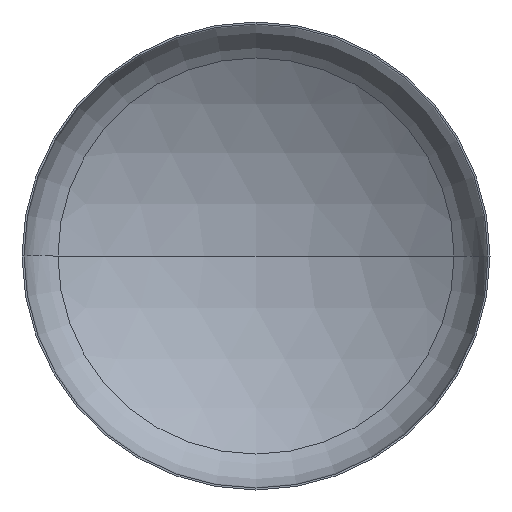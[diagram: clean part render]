
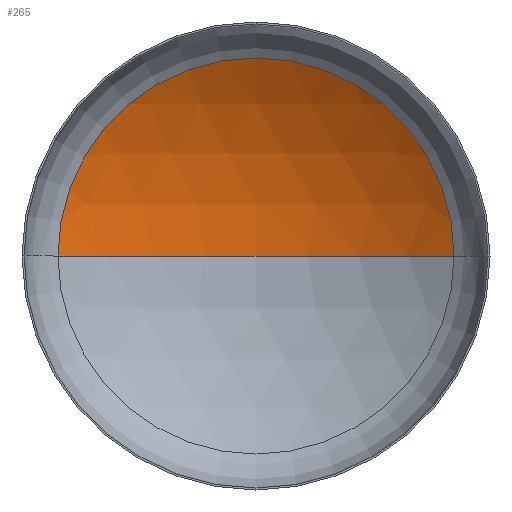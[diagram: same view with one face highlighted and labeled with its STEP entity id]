
A CAD part, front view. The second image highlights one B-rep face of the part: STEP entity #265.
In plain terms, the highlighted spherical face has radius 2880 mm.
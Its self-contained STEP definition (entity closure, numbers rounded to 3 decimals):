
#20 = DIRECTION ( 'NONE',  ( 0., 0., 1. ) ) ;
#25 = CARTESIAN_POINT ( 'NONE',  ( 0., -1927.999, 0. ) ) ;
#26 = AXIS2_PLACEMENT_3D ( 'NONE', #73, #105, #103 ) ;
#36 = VERTEX_POINT ( 'NONE', #261 ) ;
#44 = AXIS2_PLACEMENT_3D ( 'NONE', #25, #20, #65 ) ;
#45 = AXIS2_PLACEMENT_3D ( 'NONE', #206, #207, #208 ) ;
#48 = AXIS2_PLACEMENT_3D ( 'NONE', #304, #235, #232 ) ;
#65 = DIRECTION ( 'NONE',  ( 1., 0., 0. ) ) ;
#73 = CARTESIAN_POINT ( 'NONE',  ( 0., -1927.999, 0. ) ) ;
#97 = EDGE_CURVE ( 'NONE', #99, #36, #157, .T. ) ;
#98 = VERTEX_POINT ( 'NONE', #242 ) ;
#99 = VERTEX_POINT ( 'NONE', #302 ) ;
#101 = EDGE_CURVE ( 'NONE', #98, #99, #342, .T. ) ;
#103 = DIRECTION ( 'NONE',  ( -1., 0., 0. ) ) ;
#105 = DIRECTION ( 'NONE',  ( 0., 0., -1. ) ) ;
#114 = EDGE_CURVE ( 'NONE', #98, #36, #214, .T. ) ;
#119 = ORIENTED_EDGE ( 'NONE', *, *, #97, .T. ) ;
#130 = ORIENTED_EDGE ( 'NONE', *, *, #114, .F. ) ;
#157 = CIRCLE ( 'NONE', #48, 1523.613 ) ;
#159 = ORIENTED_EDGE ( 'NONE', *, *, #101, .T. ) ;
#183 = EDGE_LOOP ( 'NONE', ( #130, #159, #119 ) ) ;
#206 = CARTESIAN_POINT ( 'NONE',  ( 0., -1927.999, 0. ) ) ;
#207 = DIRECTION ( 'NONE',  ( 0., 0., -1. ) ) ;
#208 = DIRECTION ( 'NONE',  ( -1., 0., 0. ) ) ;
#214 = CIRCLE ( 'NONE', #44, 2880. ) ;
#232 = DIRECTION ( 'NONE',  ( 1., 0., 0. ) ) ;
#235 = DIRECTION ( 'NONE',  ( 0., -1., 0. ) ) ;
#242 = CARTESIAN_POINT ( 'NONE',  ( 0., 952.001, 0. ) ) ;
#259 = FACE_OUTER_BOUND ( 'NONE', #183, .T. ) ;
#261 = CARTESIAN_POINT ( 'NONE',  ( -1523.613, 515.974, 0. ) ) ;
#265 = ADVANCED_FACE ( 'NONE', ( #259 ), #385, .F. ) ;
#302 = CARTESIAN_POINT ( 'NONE',  ( 1523.613, 515.974, 0. ) ) ;
#304 = CARTESIAN_POINT ( 'NONE',  ( 0., 515.974, 0. ) ) ;
#342 = CIRCLE ( 'NONE', #45, 2880. ) ;
#385 = SPHERICAL_SURFACE ( 'NONE', #26, 2880. ) ;
